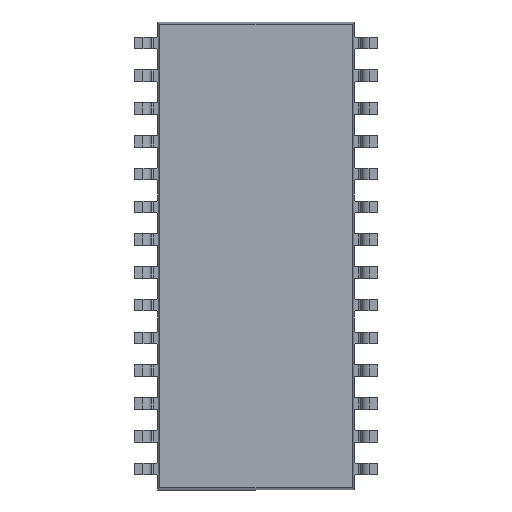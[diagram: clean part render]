
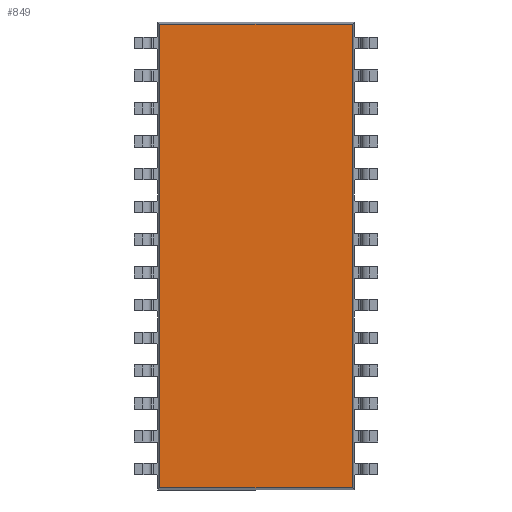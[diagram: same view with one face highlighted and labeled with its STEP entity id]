
A CAD part, front view. The second image highlights one B-rep face of the part: STEP entity #849.
In plain terms, the highlighted planar face has unit normal (0, -1, 0).
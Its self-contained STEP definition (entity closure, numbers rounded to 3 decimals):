
#17 = EDGE_CURVE ( 'NONE', #11826, #11821, #13037, .T. ) ;
#18 = EDGE_CURVE ( 'NONE', #11819, #11830, #13035, .T. ) ;
#465 = VECTOR ( 'NONE', #14305, 1000. ) ;
#474 = LINE ( 'NONE', #14304, #465 ) ;
#849 = ADVANCED_FACE ( 'NONE', ( #17523 ), #1505, .F. ) ;
#1487 = DIRECTION ( 'NONE',  ( 0., 0., 1. ) ) ;
#1488 = DIRECTION ( 'NONE',  ( 0., 1., 0. ) ) ;
#1504 = CARTESIAN_POINT ( 'NONE',  ( 0., 0.1, 0. ) ) ;
#1505 = PLANE ( 'NONE',  #9470 ) ;
#8710 = DIRECTION ( 'NONE',  ( 1., 0., 0. ) ) ;
#8715 = CARTESIAN_POINT ( 'NONE',  ( 3.81, 0.1, 8.986 ) ) ;
#8716 = CARTESIAN_POINT ( 'NONE',  ( 3.81, 0.1, -8.986 ) ) ;
#8719 = DIRECTION ( 'NONE',  ( -1., 0., 0. ) ) ;
#9470 = AXIS2_PLACEMENT_3D ( 'NONE', #1504, #1488, #1487 ) ;
#11283 = EDGE_LOOP ( 'NONE', ( #13102, #13101, #13100, #13099 ) ) ;
#11819 = VERTEX_POINT ( 'NONE', #14026 ) ;
#11821 = VERTEX_POINT ( 'NONE', #14067 ) ;
#11826 = VERTEX_POINT ( 'NONE', #14009 ) ;
#11830 = VERTEX_POINT ( 'NONE', #13942 ) ;
#13031 = VECTOR ( 'NONE', #8710, 1000. ) ;
#13033 = VECTOR ( 'NONE', #8719, 1000. ) ;
#13035 = LINE ( 'NONE', #8716, #13031 ) ;
#13037 = LINE ( 'NONE', #8715, #13033 ) ;
#13099 = ORIENTED_EDGE ( 'NONE', *, *, #17, .T. ) ;
#13100 = ORIENTED_EDGE ( 'NONE', *, *, #16060, .T. ) ;
#13101 = ORIENTED_EDGE ( 'NONE', *, *, #18, .T. ) ;
#13102 = ORIENTED_EDGE ( 'NONE', *, *, #14947, .T. ) ;
#13651 = DIRECTION ( 'NONE',  ( 0., 0., -1. ) ) ;
#13653 = CARTESIAN_POINT ( 'NONE',  ( -3.726, 0.1, 9.07 ) ) ;
#13942 = CARTESIAN_POINT ( 'NONE',  ( 3.726, 0.1, -8.986 ) ) ;
#14009 = CARTESIAN_POINT ( 'NONE',  ( 3.726, 0.1, 8.986 ) ) ;
#14026 = CARTESIAN_POINT ( 'NONE',  ( -3.726, 0.1, -8.986 ) ) ;
#14067 = CARTESIAN_POINT ( 'NONE',  ( -3.726, 0.1, 8.986 ) ) ;
#14304 = CARTESIAN_POINT ( 'NONE',  ( 3.726, 0.1, 9.07 ) ) ;
#14305 = DIRECTION ( 'NONE',  ( 0., 0., 1. ) ) ;
#14947 = EDGE_CURVE ( 'NONE', #11821, #11819, #17991, .T. ) ;
#16060 = EDGE_CURVE ( 'NONE', #11830, #11826, #474, .T. ) ;
#17523 = FACE_OUTER_BOUND ( 'NONE', #11283, .T. ) ;
#17991 = LINE ( 'NONE', #13653, #17994 ) ;
#17994 = VECTOR ( 'NONE', #13651, 1000. ) ;
